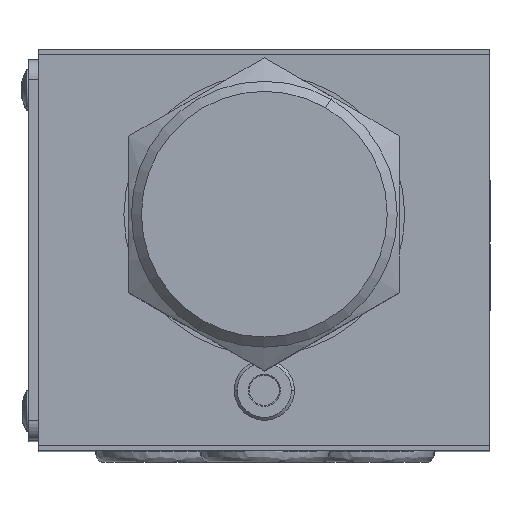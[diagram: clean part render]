
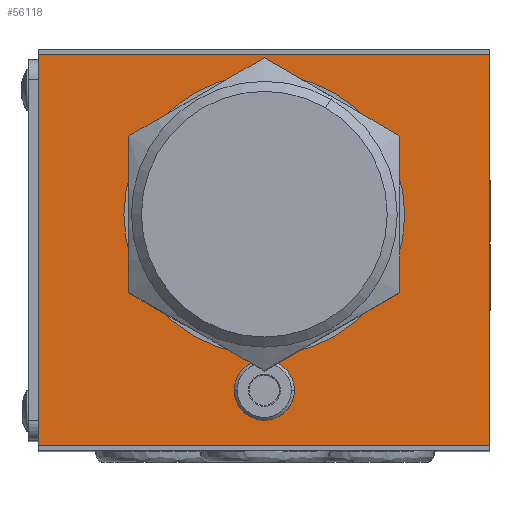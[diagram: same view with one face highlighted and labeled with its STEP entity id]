
A CAD part, top view. The second image highlights one B-rep face of the part: STEP entity #56118.
In plain terms, the highlighted planar face has unit normal (0, 0, 1).
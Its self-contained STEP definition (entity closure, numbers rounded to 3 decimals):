
#2730 = CARTESIAN_POINT ( 'NONE',  ( 0., -14., 46.5 ) ) ;
#2802 = CARTESIAN_POINT ( 'NONE',  ( -14., 3.5, 46.5 ) ) ;
#3386 = DIRECTION ( 'NONE',  ( 1., 0., 0. ) ) ;
#3900 = DIRECTION ( 'NONE',  ( 0., 0., 1. ) ) ;
#4308 = CARTESIAN_POINT ( 'NONE',  ( 0., 3.5, 46.5 ) ) ;
#4755 = VECTOR ( 'NONE', #18689, 1000. ) ;
#5221 = VERTEX_POINT ( 'NONE', #37578 ) ;
#5573 = VERTEX_POINT ( 'NONE', #2802 ) ;
#8143 = LINE ( 'NONE', #61226, #36492 ) ;
#9655 = ORIENTED_EDGE ( 'NONE', *, *, #23648, .T. ) ;
#10855 = LINE ( 'NONE', #47306, #4755 ) ;
#11304 = AXIS2_PLACEMENT_3D ( 'NONE', #2730, #37646, #12961 ) ;
#12249 = LINE ( 'NONE', #24876, #62940 ) ;
#12961 = DIRECTION ( 'NONE',  ( 1., 0., 0. ) ) ;
#15126 = EDGE_CURVE ( 'NONE', #50225, #43535, #16836, .T. ) ;
#16836 = CIRCLE ( 'NONE', #42157, 3. ) ;
#17549 = FACE_OUTER_BOUND ( 'NONE', #47177, .T. ) ;
#17798 = EDGE_LOOP ( 'NONE', ( #34084, #58242 ) ) ;
#17914 = CARTESIAN_POINT ( 'NONE',  ( -22.5, 19.5, 46.5 ) ) ;
#18689 = DIRECTION ( 'NONE',  ( 0., -1., 0. ) ) ;
#19764 = CIRCLE ( 'NONE', #52378, 14. ) ;
#21258 = VERTEX_POINT ( 'NONE', #40534 ) ;
#21792 = VERTEX_POINT ( 'NONE', #53095 ) ;
#22302 = EDGE_CURVE ( 'NONE', #21792, #5573, #43564, .T. ) ;
#22992 = VECTOR ( 'NONE', #3386, 1000. ) ;
#23478 = CARTESIAN_POINT ( 'NONE',  ( -22.5, -20., 46.5 ) ) ;
#23648 = EDGE_CURVE ( 'NONE', #62048, #5221, #10855, .T. ) ;
#24059 = EDGE_LOOP ( 'NONE', ( #33140, #58664 ) ) ;
#24876 = CARTESIAN_POINT ( 'NONE',  ( 22.5, -19.5, 46.5 ) ) ;
#28289 = CARTESIAN_POINT ( 'NONE',  ( -22.5, 19.5, 46.5 ) ) ;
#28653 = DIRECTION ( 'NONE',  ( 0., 0., 1. ) ) ;
#29264 = EDGE_CURVE ( 'NONE', #43535, #50225, #40032, .T. ) ;
#30365 = CARTESIAN_POINT ( 'NONE',  ( 3., -14., 46.5 ) ) ;
#31411 = EDGE_CURVE ( 'NONE', #21258, #32248, #8143, .T. ) ;
#31716 = AXIS2_PLACEMENT_3D ( 'NONE', #23478, #38102, #63429 ) ;
#31862 = CARTESIAN_POINT ( 'NONE',  ( 0., -14., 46.5 ) ) ;
#32248 = VERTEX_POINT ( 'NONE', #39637 ) ;
#33140 = ORIENTED_EDGE ( 'NONE', *, *, #22302, .F. ) ;
#33574 = DIRECTION ( 'NONE',  ( 1., 0., 0. ) ) ;
#34084 = ORIENTED_EDGE ( 'NONE', *, *, #15126, .F. ) ;
#36492 = VECTOR ( 'NONE', #36942, 1000. ) ;
#36942 = DIRECTION ( 'NONE',  ( 0., 1., 0. ) ) ;
#37578 = CARTESIAN_POINT ( 'NONE',  ( -22.5, -19.5, 46.5 ) ) ;
#37646 = DIRECTION ( 'NONE',  ( 0., 0., 1. ) ) ;
#38102 = DIRECTION ( 'NONE',  ( 0., 0., 1. ) ) ;
#38138 = CARTESIAN_POINT ( 'NONE',  ( 0., 3.5, 46.5 ) ) ;
#39147 = CARTESIAN_POINT ( 'NONE',  ( -3., -14., 46.5 ) ) ;
#39637 = CARTESIAN_POINT ( 'NONE',  ( 22.5, 19.5, 46.5 ) ) ;
#40032 = CIRCLE ( 'NONE', #11304, 3. ) ;
#40534 = CARTESIAN_POINT ( 'NONE',  ( 22.5, -19.5, 46.5 ) ) ;
#41807 = DIRECTION ( 'NONE',  ( 1., 0., 0. ) ) ;
#42157 = AXIS2_PLACEMENT_3D ( 'NONE', #31862, #56808, #41807 ) ;
#43535 = VERTEX_POINT ( 'NONE', #39147 ) ;
#43564 = CIRCLE ( 'NONE', #50916, 14. ) ;
#45250 = FACE_BOUND ( 'NONE', #17798, .T. ) ;
#47177 = EDGE_LOOP ( 'NONE', ( #55572, #48847, #63023, #9655 ) ) ;
#47306 = CARTESIAN_POINT ( 'NONE',  ( -22.5, 20., 46.5 ) ) ;
#47488 = EDGE_CURVE ( 'NONE', #21258, #5221, #12249, .T. ) ;
#47619 = LINE ( 'NONE', #17914, #22992 ) ;
#48847 = ORIENTED_EDGE ( 'NONE', *, *, #31411, .T. ) ;
#50225 = VERTEX_POINT ( 'NONE', #30365 ) ;
#50916 = AXIS2_PLACEMENT_3D ( 'NONE', #4308, #3900, #53649 ) ;
#52378 = AXIS2_PLACEMENT_3D ( 'NONE', #38138, #28653, #33574 ) ;
#52939 = PLANE ( 'NONE',  #31716 ) ;
#52949 = FACE_BOUND ( 'NONE', #24059, .T. ) ;
#53095 = CARTESIAN_POINT ( 'NONE',  ( 14., 3.5, 46.5 ) ) ;
#53649 = DIRECTION ( 'NONE',  ( 1., 0., 0. ) ) ;
#55572 = ORIENTED_EDGE ( 'NONE', *, *, #47488, .F. ) ;
#55932 = EDGE_CURVE ( 'NONE', #62048, #32248, #47619, .T. ) ;
#56118 = ADVANCED_FACE ( 'NONE', ( #45250, #52949, #17549 ), #52939, .T. ) ;
#56689 = EDGE_CURVE ( 'NONE', #5573, #21792, #19764, .T. ) ;
#56808 = DIRECTION ( 'NONE',  ( 0., 0., 1. ) ) ;
#58242 = ORIENTED_EDGE ( 'NONE', *, *, #29264, .F. ) ;
#58664 = ORIENTED_EDGE ( 'NONE', *, *, #56689, .F. ) ;
#60317 = DIRECTION ( 'NONE',  ( -1., 0., 0. ) ) ;
#61226 = CARTESIAN_POINT ( 'NONE',  ( 22.5, 20., 46.5 ) ) ;
#62048 = VERTEX_POINT ( 'NONE', #28289 ) ;
#62940 = VECTOR ( 'NONE', #60317, 1000. ) ;
#63023 = ORIENTED_EDGE ( 'NONE', *, *, #55932, .F. ) ;
#63429 = DIRECTION ( 'NONE',  ( 1., 0., 0. ) ) ;
